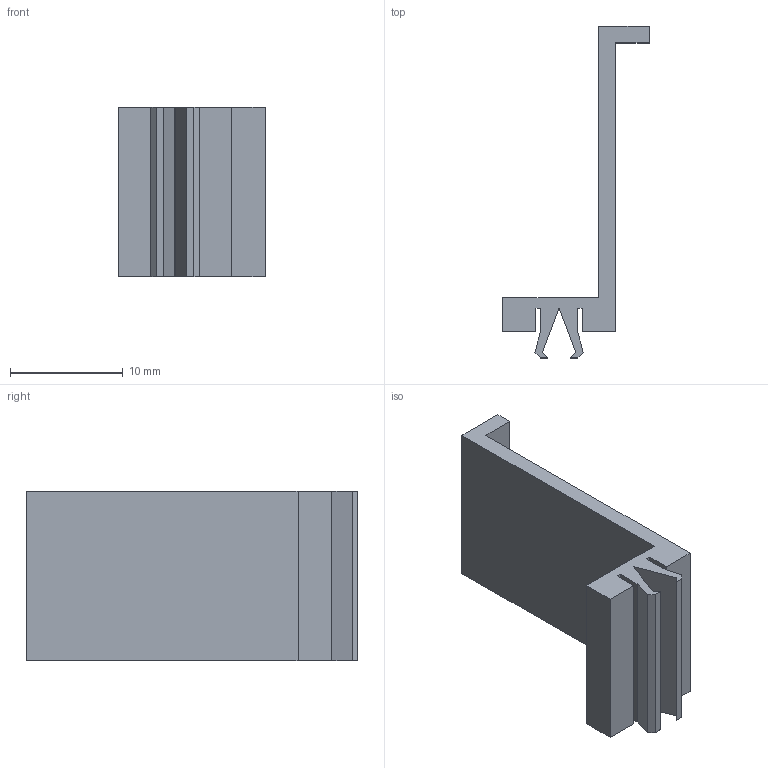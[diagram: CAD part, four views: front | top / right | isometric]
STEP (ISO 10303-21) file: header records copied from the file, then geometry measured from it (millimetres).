
FILE_DESCRIPTION(/* description */ (''),/* implementation_level */ '2;1');
FILE_NAME(/* name */ 'C:/Users/priba/Downloads/lid-e-buckle.step',/* time_stamp */ '2022-04-05T23:57:44+02:00',/* author */ (''),/* organization */ (''),/* preprocessor_version */ 'ST-DEVELOPER v18.1',/* originating_system */ 'Autodesk Translation Framework v10.13.0.1454',/* authorisation */ '');
FILE_SCHEMA (('AUTOMOTIVE_DESIGN { 1 0 10303 214 3 1 1 }'));
Length unit declared in the file: millimetre
Products named in the file (1): lid-e-buckle
Bounding box: 13 x 29.41 x 15 mm (x, y, z)
Volume: 1059.6 mm3; surface area: 1663.5 mm2
Topology: 1 solids, 1 shells, 28 faces, 78 edges, 52 vertices
Faces by surface type: plane 28
Entity records: 904 total; most frequent: CARTESIAN_POINT 159, ORIENTED_EDGE 156, DIRECTION 136, LINE 78, VECTOR 78, EDGE_CURVE 78, VERTEX_POINT 52, AXIS2_PLACEMENT_3D 29
